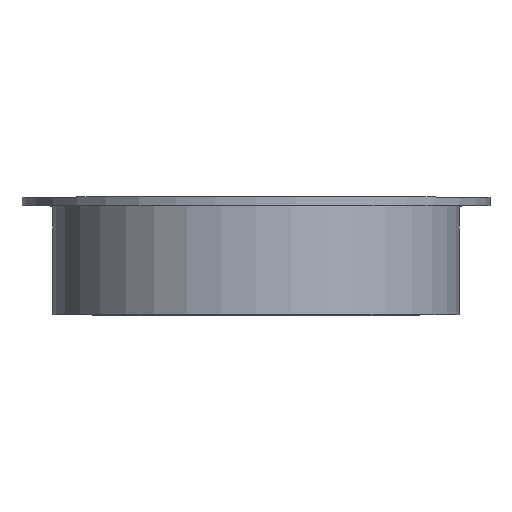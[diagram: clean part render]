
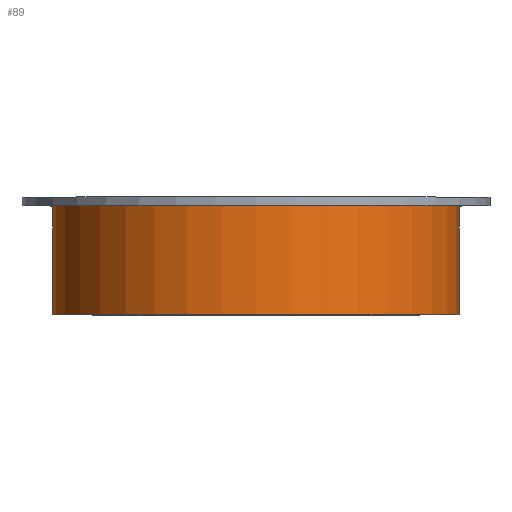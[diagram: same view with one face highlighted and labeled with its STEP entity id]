
A CAD part, top view. The second image highlights one B-rep face of the part: STEP entity #89.
In plain terms, the highlighted cylindrical face has radius 95 mm (diameter 190 mm), a partial arc.
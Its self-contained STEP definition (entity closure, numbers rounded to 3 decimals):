
#89=ADVANCED_FACE('',(#176),#177,.T.);
#176=FACE_OUTER_BOUND('',#277,.T.);
#177=CYLINDRICAL_SURFACE('',#278,95.0);
#277=EDGE_LOOP('',(#472,#473,#474,#475));
#278=AXIS2_PLACEMENT_3D('',#476,#477,#478);
#472=ORIENTED_EDGE('',*,*,#549,.T.);
#473=ORIENTED_EDGE('',*,*,#626,.T.);
#474=ORIENTED_EDGE('',*,*,#551,.T.);
#475=ORIENTED_EDGE('',*,*,#627,.F.);
#476=CARTESIAN_POINT('',(0.0,-30.0,0.));
#477=DIRECTION('',(0.0,1.0,0.));
#478=DIRECTION('',(1.0,0.0,0.0));
#549=EDGE_CURVE('',#644,#645,#646,.T.);
#551=EDGE_CURVE('',#649,#647,#650,.T.);
#626=EDGE_CURVE('',#645,#649,#761,.T.);
#627=EDGE_CURVE('',#644,#647,#762,.T.);
#644=VERTEX_POINT('',#781);
#645=VERTEX_POINT('',#782);
#646=LINE('',#783,#784);
#647=VERTEX_POINT('',#785);
#649=VERTEX_POINT('',#787);
#650=LINE('',#788,#789);
#761=CIRCLE('',#918,95.0);
#762=CIRCLE('',#919,95.0);
#781=CARTESIAN_POINT('',(95.0,-55.0,0.));
#782=CARTESIAN_POINT('',(95.0,-4.0,0.));
#783=CARTESIAN_POINT('',(95.0,-30.0,0.));
#784=VECTOR('',#934,1.0);
#785=CARTESIAN_POINT('',(-95.0,-55.0,0.));
#787=CARTESIAN_POINT('',(-95.0,-4.0,0.));
#788=CARTESIAN_POINT('',(-95.0,-30.0,0.));
#789=VECTOR('',#938,1.0);
#918=AXIS2_PLACEMENT_3D('',#1068,#1069,#1070);
#919=AXIS2_PLACEMENT_3D('',#1071,#1072,#1073);
#934=DIRECTION('',(0.0,1.0,0.));
#938=DIRECTION('',(-0.0,-1.0,0.));
#1068=CARTESIAN_POINT('',(0.0,-4.0,0.));
#1069=DIRECTION('',(0.0,-1.0,0.));
#1070=DIRECTION('',(1.0,0.0,0.0));
#1071=CARTESIAN_POINT('',(0.0,-55.0,0.));
#1072=DIRECTION('',(0.0,-1.0,0.));
#1073=DIRECTION('',(1.0,0.0,0.0));
